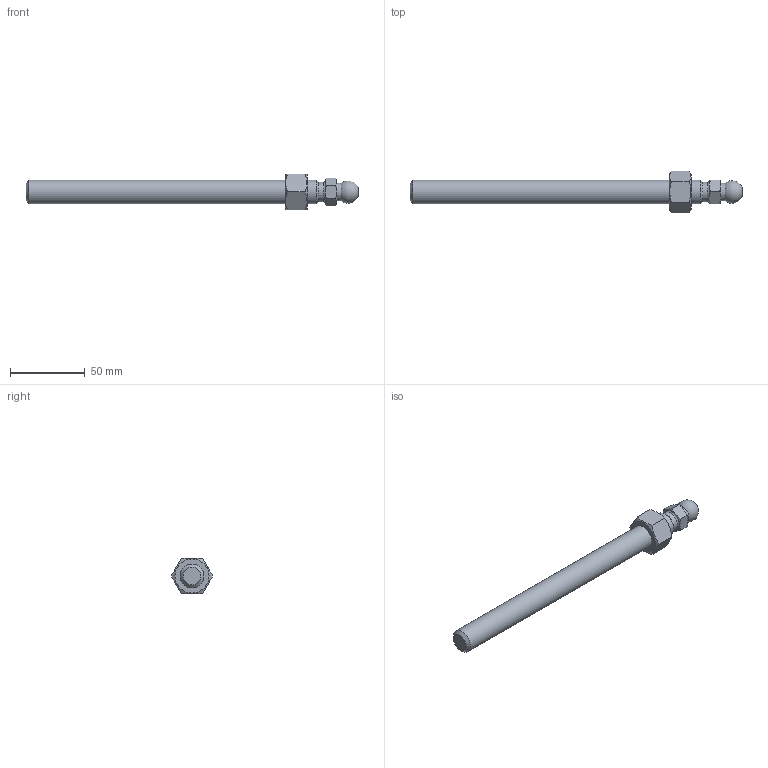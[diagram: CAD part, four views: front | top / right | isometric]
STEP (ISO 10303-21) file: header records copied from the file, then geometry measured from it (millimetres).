
FILE_DESCRIPTION(('STEP AP203'), '1');
FILE_NAME('A00020.116200', '', ('UNSPECIFIED'), ('UNSPECIFIED'), 'C3D Converter', 'C3D Toolkit', '');
FILE_SCHEMA(('CONFIG_CONTROL_DESIGN'));
Length unit declared in the file: millimetre
Products named in the file (2): A00020.116200
Assembly tree (1 placements, depth 2):
  A00020.116200
    (unnamed)
Bounding box: 221.8 x 27.71 x 24 mm (x, y, z)
Volume: 48360.8 mm3; surface area: 13849.3 mm2
Topology: 2 solids, 2 shells, 41 faces, 90 edges, 55 vertices
Faces by surface type: plane 18, cone 17, cylinder 4, sphere 1, torus 1
Full cylindrical faces by diameter (mm): 12 x1, 13 x1, 13.835 x1, 16 x1
Entity records: 2336 total; most frequent: CARTESIAN_POINT 1206, DIRECTION 160, ORIENTED_EDGE 156, EDGE_CURVE 78, AXIS2_PLACEMENT_3D 74, EDGE_LOOP 57, VERTEX_POINT 55, ADVANCED_FACE 41
